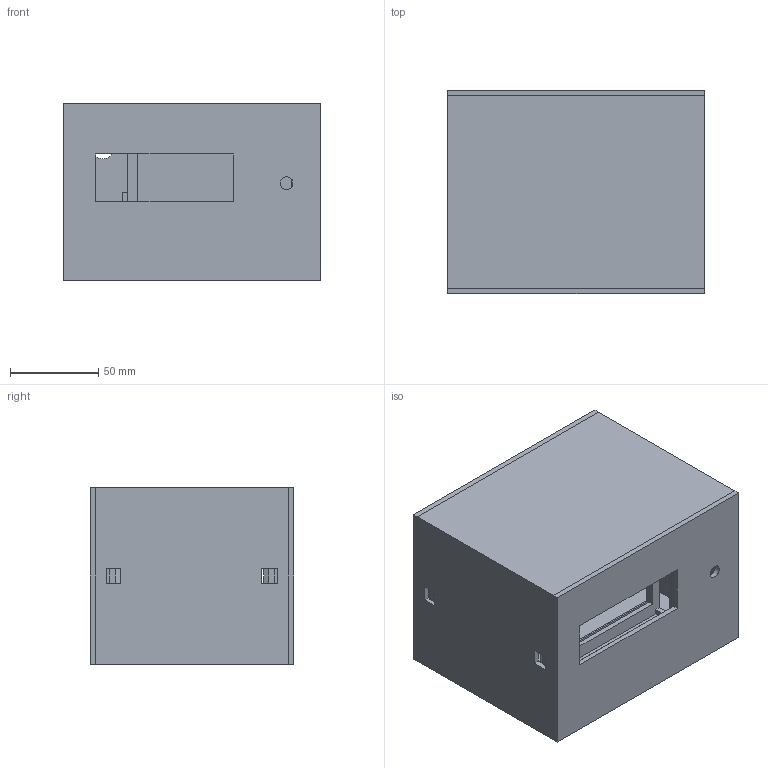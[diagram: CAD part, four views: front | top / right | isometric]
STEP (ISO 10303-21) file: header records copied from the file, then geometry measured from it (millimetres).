
FILE_DESCRIPTION(('Open CASCADE Model'),'2;1');
FILE_NAME('Open CASCADE Shape Model','2026-11-04T22:00:48',('Author'),( 'Open CASCADE'),'Open CASCADE STEP processor 7.8','Open CASCADE 7.8' ,'Unknown');
FILE_SCHEMA(('AUTOMOTIVE_DESIGN { 1 0 10303 214 1 1 1 1 }'));
Length unit declared in the file: millimetre
Products named in the file (5): Boitier_4_pieces_a_imprimer; 01_Coque_ouverte; 02_Facade_supports_LCD_A; 03_Berceau_B; 04_Panneau_arriere
Assembly tree (4 placements, depth 2):
  Boitier_4_pieces_a_imprimer
    01_Coque_ouverte
    02_Facade_supports_LCD_A
    03_Berceau_B
    04_Panneau_arriere
Bounding box: 145 x 115 x 100 mm (x, y, z)
Volume: 273655.1 mm3; surface area: 208204.5 mm2
Topology: 4 solids, 4 shells, 368 faces, 1059 edges, 704 vertices
Faces by surface type: plane 363, cylinder 5
Full cylindrical faces by diameter (mm): 7.2 x1, 12.4 x1, 12.5 x2, 16 x1
Entity records: 25083 total; most frequent: CARTESIAN_POINT 4962, DIRECTION 3225, LINE 2449, VECTOR 2449, ORIENTED_EDGE 2118, PCURVE 2118, DEFINITIONAL_REPRESENTATION 2118, EDGE_CURVE 1059
